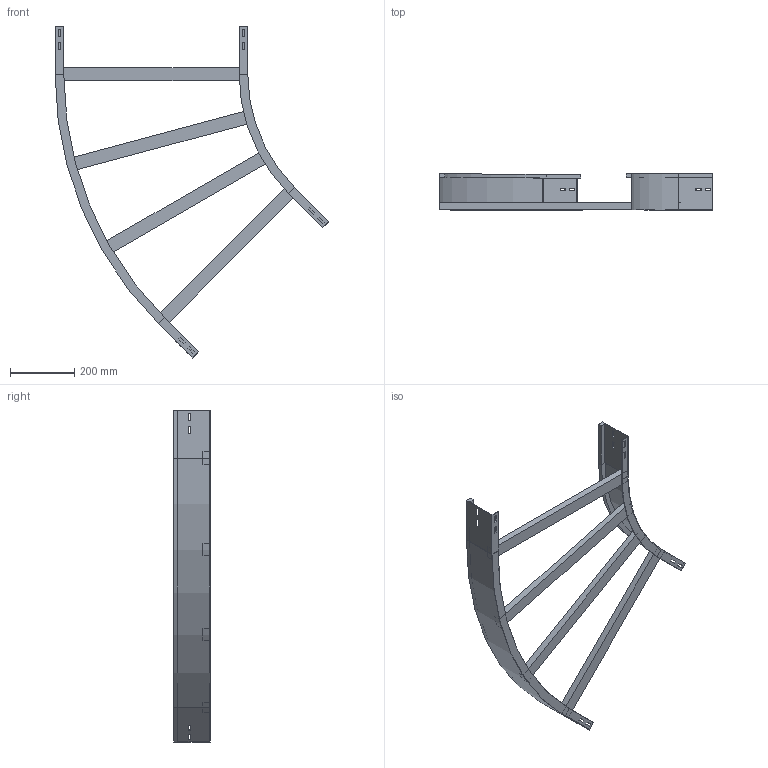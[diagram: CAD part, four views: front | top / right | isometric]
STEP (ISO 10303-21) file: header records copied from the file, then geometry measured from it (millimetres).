
FILE_DESCRIPTION (( 'STEP AP214' ), '1' );
FILE_NAME ('11B5J600.step', '2025-02-21T15:13:40', ( '' ), ( '' ), 'SwSTEP 2.0', 'SolidWorks 2023', '' );
FILE_SCHEMA (( 'AUTOMOTIVE_DESIGN' ));
Length unit declared in the file: millimetre
Products named in the file (4): A2_LONGH.ESTERNO 45°_H112.5_R500+600; A2_LONGH.INTERNO 45°_H112.5_R500; 11B5J600; TRAVERSINO_600
Assembly tree (6 placements, depth 2):
  11B5J600
    A2_LONGH.INTERNO 45°_H112.5_R500
    A2_LONGH.ESTERNO 45°_H112.5_R500+600
    TRAVERSINO_600  x4
Bounding box: 852.51 x 112.5 x 1033.88 mm (x, y, z)
Volume: 2793161.5 mm3; surface area: 871154.1 mm2
Topology: 6 solids, 6 shells, 140 faces, 352 edges, 224 vertices
Faces by surface type: plane 132, cylinder 8
Entity records: 3829 total; most frequent: CARTESIAN_POINT 647, ORIENTED_EDGE 632, DIRECTION 594, EDGE_CURVE 316, VECTOR 300, LINE 300, VERTEX_POINT 200, EDGE_LOOP 154
